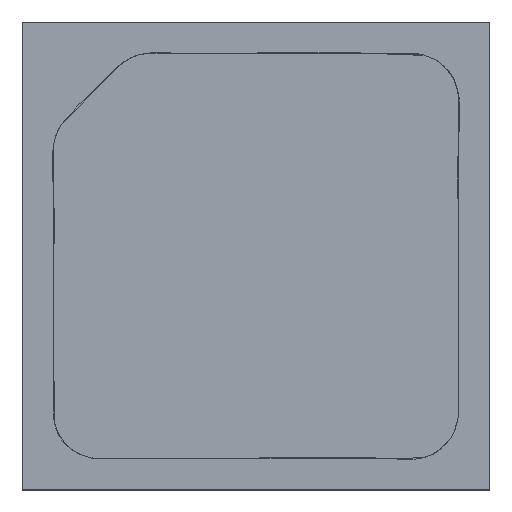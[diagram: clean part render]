
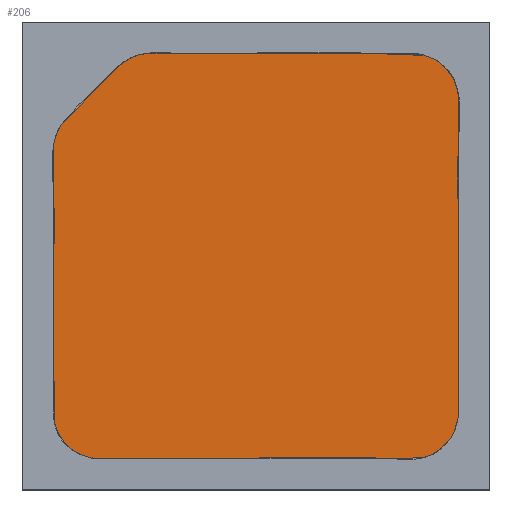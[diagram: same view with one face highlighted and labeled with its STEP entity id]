
A CAD part, top view. The second image highlights one B-rep face of the part: STEP entity #206.
In plain terms, the highlighted planar face has unit normal (0, 0, 1).
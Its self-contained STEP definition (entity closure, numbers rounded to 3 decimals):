
#136=B_SPLINE_CURVE_WITH_KNOTS('',3,(#2397,#2398,#2399,#2400,#2401,#2402,
#2403,#2404,#2405,#2406,#2407,#2408,#2409,#2410,#2411,#2412,#2413,#2414,
#2415,#2416,#2417,#2418,#2419,#2420,#2421,#2422,#2423,#2424,#2425,#2426,
#2427,#2428,#2429,#2430),.UNSPECIFIED.,.T.,.F.,(1,1,2,1,1,1,1,1,1,1,1,1,
1,1,1,1,1,1,1,1,1,1,1,1,1,1,1,1,1,1,1,1,1,2,1,1),(-0.063,-0.031,0.,0.125,
0.188,0.219,0.234,0.25,0.258,0.281,0.313,0.375,0.438,0.469,
0.484,0.5,0.508,0.563,0.625,0.656,0.68,0.688,0.703,0.719,
0.734,0.75,0.766,0.781,0.813,0.844,0.875,0.938,0.969,1.,1.125,
1.188),.UNSPECIFIED.);
#206=ADVANCED_FACE('',(#318),#257,.T.);
#257=PLANE('',#1365);
#318=FACE_OUTER_BOUND('',#396,.T.);
#396=EDGE_LOOP('',(#730));
#730=ORIENTED_EDGE('',*,*,#1008,.T.);
#841=VERTEX_POINT('',#2431);
#1008=EDGE_CURVE('',#841,#841,#136,.T.);
#1365=AXIS2_PLACEMENT_3D('',#2467,#1693,#1694);
#1693=DIRECTION('',(0.,0.,1.));
#1694=DIRECTION('',(0.,-1.,0.));
#2397=CARTESIAN_POINT('',(-1.099,-1.301,0.46));
#2398=CARTESIAN_POINT('',(-0.594,-1.3,0.46));
#2399=CARTESIAN_POINT('',(0.017,-1.314,0.46));
#2400=CARTESIAN_POINT('',(0.711,-1.279,0.46));
#2401=CARTESIAN_POINT('',(1.083,-1.326,0.46));
#2402=CARTESIAN_POINT('',(1.246,-1.192,0.46));
#2403=CARTESIAN_POINT('',(1.298,-1.071,0.46));
#2404=CARTESIAN_POINT('',(1.298,-0.919,0.46));
#2405=CARTESIAN_POINT('',(1.301,-0.717,0.46));
#2406=CARTESIAN_POINT('',(1.305,-0.338,0.46));
#2407=CARTESIAN_POINT('',(1.303,0.167,0.46));
#2408=CARTESIAN_POINT('',(1.281,0.667,0.46));
#2409=CARTESIAN_POINT('',(1.326,1.031,0.46));
#2410=CARTESIAN_POINT('',(1.225,1.212,0.46));
#2411=CARTESIAN_POINT('',(1.118,1.285,0.46));
#2412=CARTESIAN_POINT('',(0.866,1.301,0.46));
#2413=CARTESIAN_POINT('',(0.462,1.306,0.46));
#2414=CARTESIAN_POINT('',(-0.018,1.296,0.46));
#2415=CARTESIAN_POINT('',(-0.397,1.301,0.46));
#2416=CARTESIAN_POINT('',(-0.599,1.3,0.46));
#2417=CARTESIAN_POINT('',(-0.752,1.299,0.46));
#2418=CARTESIAN_POINT('',(-0.864,1.243,0.46));
#2419=CARTESIAN_POINT('',(-0.97,1.127,0.46));
#2420=CARTESIAN_POINT('',(-1.077,1.021,0.46));
#2421=CARTESIAN_POINT('',(-1.192,0.919,0.46));
#2422=CARTESIAN_POINT('',(-1.286,0.8,0.46));
#2423=CARTESIAN_POINT('',(-1.317,0.605,0.46));
#2424=CARTESIAN_POINT('',(-1.288,0.338,0.46));
#2425=CARTESIAN_POINT('',(-1.3,0.042,0.46));
#2426=CARTESIAN_POINT('',(-1.302,-0.364,0.46));
#2427=CARTESIAN_POINT('',(-1.29,-0.755,0.46));
#2428=CARTESIAN_POINT('',(-1.314,-1.189,0.46));
#2429=CARTESIAN_POINT('',(-1.099,-1.301,0.46));
#2430=CARTESIAN_POINT('',(-0.594,-1.3,0.46));
#2431=CARTESIAN_POINT('',(-0.998,-1.301,0.46));
#2467=CARTESIAN_POINT('',(1.092,1.282,0.46));
